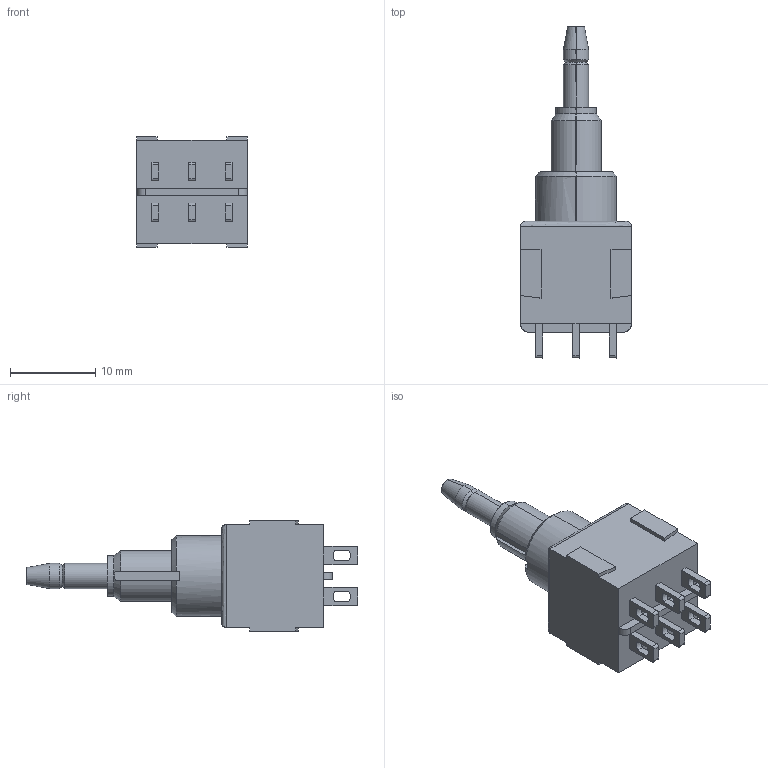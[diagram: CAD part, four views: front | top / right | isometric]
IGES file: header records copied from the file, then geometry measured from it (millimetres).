
Start section: SolidWorks IGES file using analytic representation for surfaces
Global section: file name: 8HC:\Documents and Settings\user\桌面\PPA-206N.IGS; native system: SolidWorks 2007; preprocessor: SolidWorks 2007; author: user; date: 121018.161718; units: millimetre
Bounding box: 13 x 38.9 x 13 mm (x, y, z)
Surface area: 1487.3 mm2 (no closed solid volume)
Topology: 0 solids, 0 shells, 127 faces, 1042 edges, 1042 vertices
Faces by surface type: bspline 75, revolution 52
